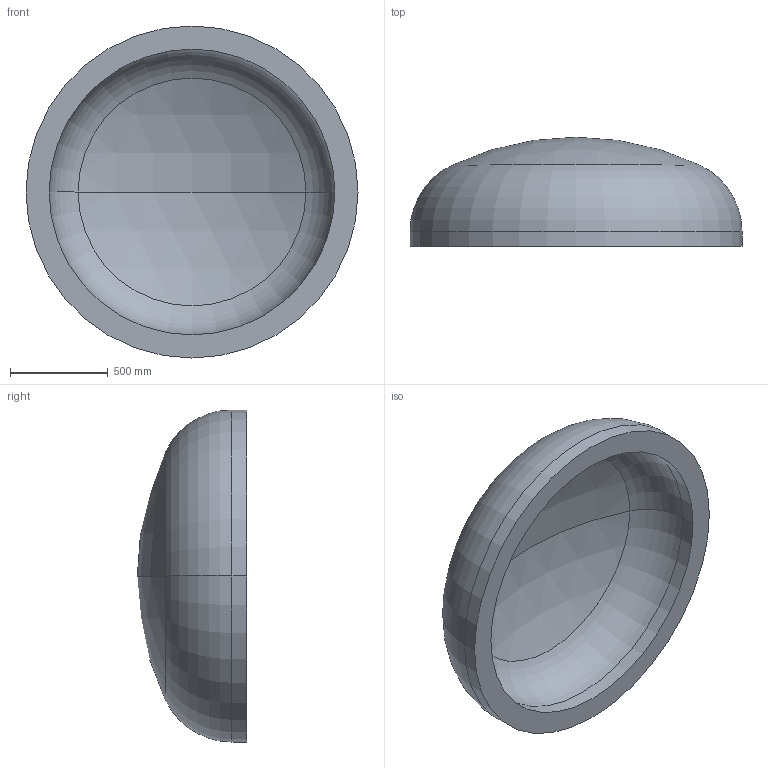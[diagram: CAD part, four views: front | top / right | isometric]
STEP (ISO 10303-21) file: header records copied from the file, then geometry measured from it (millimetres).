
FILE_DESCRIPTION (( 'STEP AP203' ), '1' );
FILE_NAME ('DIN 28013 Korbbogenform_-_Boden DIN 28013 - 1700 x 75 - I - s=118.step', '2016-07-01T12:12:28', ( '' ), ( '' ), 'SwSTEP 2.0', 'SolidWorks 2013', '' );
FILE_SCHEMA (( 'CONFIG_CONTROL_DESIGN' ));
Length unit declared in the file: millimetre
Products named in the file (1): DIN 28013 Korbbogenform_-_Boden DIN 28013 - 1700 x 75 - I - s=118
Bounding box: 1700 x 559.41 x 1700 mm (x, y, z)
Volume: 383258677.2 mm3; surface area: 7111530.6 mm2
Topology: 1 solids, 1 shells, 13 faces, 24 edges, 14 vertices
Faces by surface type: torus 4, cylinder 4, sphere 4, plane 1
Entity records: 407 total; most frequent: DIRECTION 72, CARTESIAN_POINT 52, ORIENTED_EDGE 48, AXIS2_PLACEMENT_3D 34, EDGE_CURVE 24, CIRCLE 20, VERTEX_POINT 14, EDGE_LOOP 14
